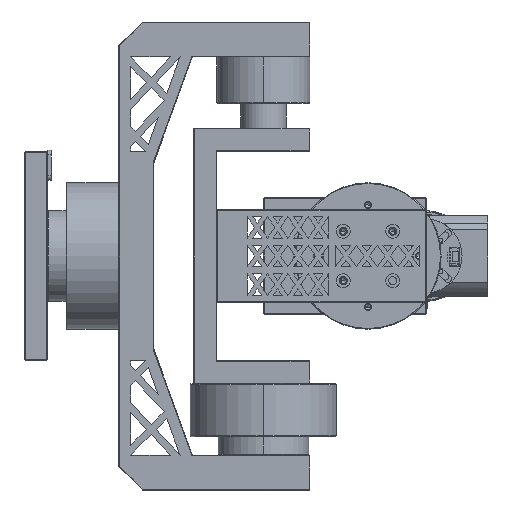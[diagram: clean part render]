
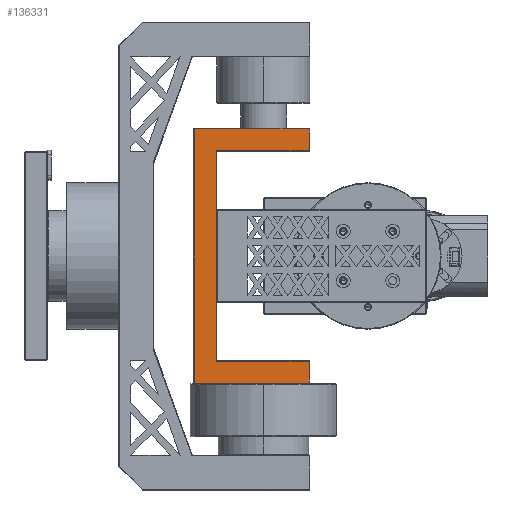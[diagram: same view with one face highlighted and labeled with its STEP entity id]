
A CAD part, left-side view. The second image highlights one B-rep face of the part: STEP entity #136331.
In plain terms, the highlighted planar face has unit normal (-1, 0, 0) as drawn and (0, 0, 1) by its records, which use the part's own axes.
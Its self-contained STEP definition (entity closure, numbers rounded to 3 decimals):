
#5715 = CARTESIAN_POINT ( 'NONE',  ( 54.7, 39.7, 50. ) ) ;
#7294 = VERTEX_POINT ( 'NONE', #29260 ) ;
#7618 = DIRECTION ( 'NONE',  ( -1., 0., 0. ) ) ;
#8073 = AXIS2_PLACEMENT_3D ( 'NONE', #96768, #99101, #83329 ) ;
#10941 = LINE ( 'NONE', #133563, #111742 ) ;
#11009 = DIRECTION ( 'NONE',  ( 0., -1., 0. ) ) ;
#11197 = LINE ( 'NONE', #145667, #88827 ) ;
#15633 = CARTESIAN_POINT ( 'NONE',  ( 45.3, 0., 50. ) ) ;
#18449 = ORIENTED_EDGE ( 'NONE', *, *, #104615, .T. ) ;
#19251 = EDGE_LOOP ( 'NONE', ( #18449, #146552, #44552, #134386, #72131, #99031, #126526, #147454 ) ) ;
#21611 = VECTOR ( 'NONE', #7618, 1000. ) ;
#22941 = DIRECTION ( 'NONE',  ( 0., 1., 0. ) ) ;
#29260 = CARTESIAN_POINT ( 'NONE',  ( -45.3, -0.3, 50. ) ) ;
#33972 = VECTOR ( 'NONE', #63983, 1000. ) ;
#44552 = ORIENTED_EDGE ( 'NONE', *, *, #95358, .T. ) ;
#45372 = DIRECTION ( 'NONE',  ( 1., 0., 0. ) ) ;
#46956 = CARTESIAN_POINT ( 'NONE',  ( 55., -9.7, 50. ) ) ;
#48132 = CARTESIAN_POINT ( 'NONE',  ( -45.3, 39.7, 50. ) ) ;
#53439 = VERTEX_POINT ( 'NONE', #132634 ) ;
#54407 = LINE ( 'NONE', #15633, #33972 ) ;
#55639 = EDGE_CURVE ( 'NONE', #53439, #130899, #10941, .T. ) ;
#57082 = VERTEX_POINT ( 'NONE', #48132 ) ;
#59603 = FACE_OUTER_BOUND ( 'NONE', #19251, .T. ) ;
#60004 = CARTESIAN_POINT ( 'NONE',  ( 0., -0.3, 50. ) ) ;
#63983 = DIRECTION ( 'NONE',  ( 0., -1., 0. ) ) ;
#66378 = VERTEX_POINT ( 'NONE', #138367 ) ;
#68835 = CARTESIAN_POINT ( 'NONE',  ( -54.7, -10., 50. ) ) ;
#70151 = CARTESIAN_POINT ( 'NONE',  ( -54.7, -9.7, 50. ) ) ;
#72131 = ORIENTED_EDGE ( 'NONE', *, *, #125685, .T. ) ;
#72701 = DIRECTION ( 'NONE',  ( 0., 1., 0. ) ) ;
#82952 = LINE ( 'NONE', #60004, #124539 ) ;
#83329 = DIRECTION ( 'NONE',  ( -1., 0., 0. ) ) ;
#85657 = PLANE ( 'NONE',  #8073 ) ;
#88827 = VECTOR ( 'NONE', #133811, 1000. ) ;
#91394 = CARTESIAN_POINT ( 'NONE',  ( 45.3, 39.7, 50. ) ) ;
#95358 = EDGE_CURVE ( 'NONE', #7294, #57082, #131404, .T. ) ;
#96768 = CARTESIAN_POINT ( 'NONE',  ( 0., 0., 50. ) ) ;
#99031 = ORIENTED_EDGE ( 'NONE', *, *, #140940, .T. ) ;
#99101 = DIRECTION ( 'NONE',  ( 0., 0., -1. ) ) ;
#102545 = VECTOR ( 'NONE', #45372, 1000. ) ;
#104540 = CARTESIAN_POINT ( 'NONE',  ( -45.3, 0., 50. ) ) ;
#104615 = EDGE_CURVE ( 'NONE', #132024, #142016, #54407, .T. ) ;
#105763 = CARTESIAN_POINT ( 'NONE',  ( 45., 39.7, 50. ) ) ;
#106737 = VECTOR ( 'NONE', #11009, 1000. ) ;
#107898 = VERTEX_POINT ( 'NONE', #70151 ) ;
#111742 = VECTOR ( 'NONE', #72701, 1000. ) ;
#115572 = EDGE_CURVE ( 'NONE', #57082, #66378, #11197, .T. ) ;
#118368 = CARTESIAN_POINT ( 'NONE',  ( 45.3, -0.3, 50. ) ) ;
#124539 = VECTOR ( 'NONE', #133550, 1000. ) ;
#125685 = EDGE_CURVE ( 'NONE', #66378, #107898, #130531, .T. ) ;
#126526 = ORIENTED_EDGE ( 'NONE', *, *, #55639, .T. ) ;
#129497 = LINE ( 'NONE', #105763, #21611 ) ;
#130531 = LINE ( 'NONE', #68835, #106737 ) ;
#130899 = VERTEX_POINT ( 'NONE', #5715 ) ;
#131404 = LINE ( 'NONE', #104540, #151107 ) ;
#132024 = VERTEX_POINT ( 'NONE', #91394 ) ;
#132634 = CARTESIAN_POINT ( 'NONE',  ( 54.7, -9.7, 50. ) ) ;
#133550 = DIRECTION ( 'NONE',  ( -1., 0., 0. ) ) ;
#133563 = CARTESIAN_POINT ( 'NONE',  ( 54.7, 40., 50. ) ) ;
#133811 = DIRECTION ( 'NONE',  ( -1., 0., 0. ) ) ;
#134386 = ORIENTED_EDGE ( 'NONE', *, *, #115572, .T. ) ;
#136331 = ADVANCED_FACE ( 'NONE', ( #59603 ), #85657, .F. ) ;
#137134 = EDGE_CURVE ( 'NONE', #142016, #7294, #82952, .T. ) ;
#138367 = CARTESIAN_POINT ( 'NONE',  ( -54.7, 39.7, 50. ) ) ;
#140482 = EDGE_CURVE ( 'NONE', #130899, #132024, #129497, .T. ) ;
#140940 = EDGE_CURVE ( 'NONE', #107898, #53439, #142743, .T. ) ;
#142016 = VERTEX_POINT ( 'NONE', #118368 ) ;
#142743 = LINE ( 'NONE', #46956, #102545 ) ;
#145667 = CARTESIAN_POINT ( 'NONE',  ( -55., 39.7, 50. ) ) ;
#146552 = ORIENTED_EDGE ( 'NONE', *, *, #137134, .T. ) ;
#147454 = ORIENTED_EDGE ( 'NONE', *, *, #140482, .T. ) ;
#151107 = VECTOR ( 'NONE', #22941, 1000. ) ;
